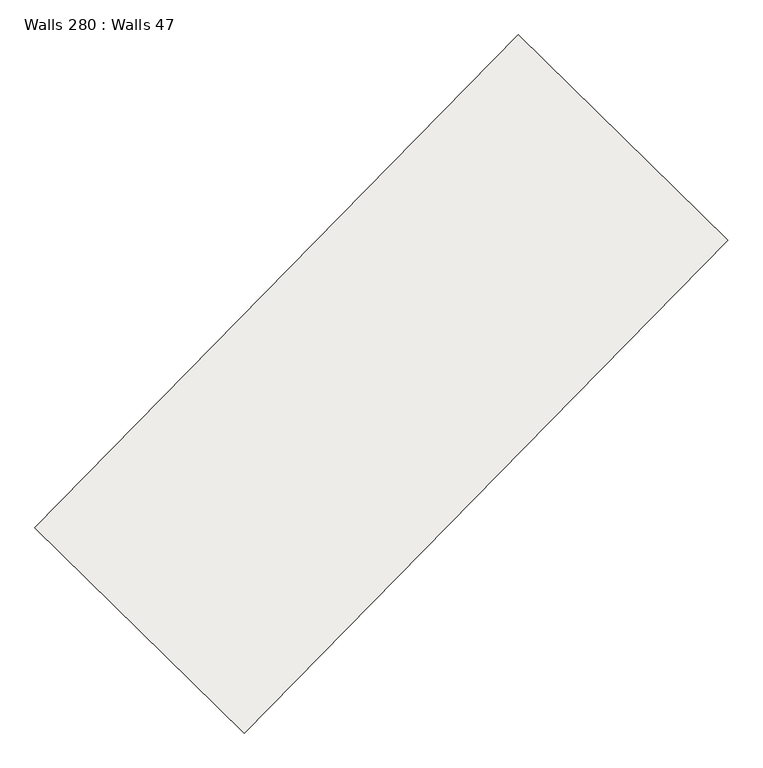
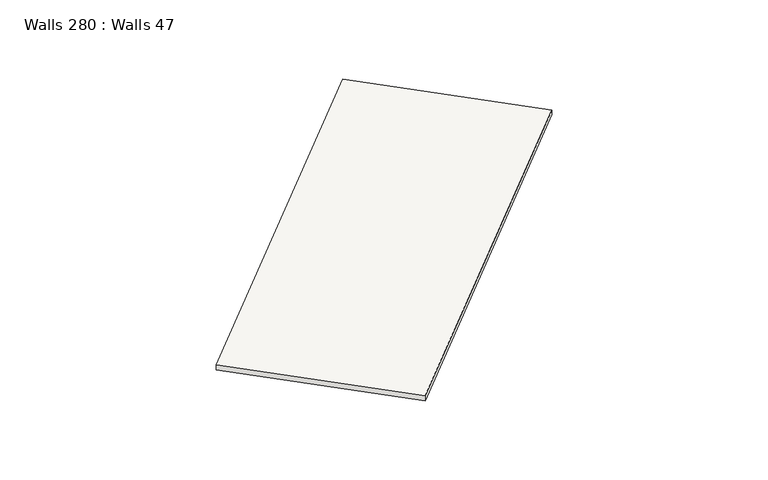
"""IFC4 building model written with IfcOpenShell, lengths in millimetres: slab geometry, Walls 280 : Walls 47."""

import ifcopenshell
import ifcopenshell.guid

model = None  # the IFC model being written
_history = None  # IfcOwnerHistory: only IFC2X3 demands one
_inside = {}  # id of a spatial element -> (the spatial element, [elements in it])
_under = {}  # id of a project, library or spatial element -> (it, [spatial elements below it])
_declared = {}  # id of a project -> (the project, [libraries it declares])
_typed = {}  # id of a type object -> (the type object, [elements of that type])
_made_of = {}  # id of a material, layer set ... -> (it, [elements and type objects made of it])


def new_model(schema):
    """Start an empty IFC model of exactly this schema.

    Asked for "IFC4X3", IfcOpenShell would pick the latest addendum, in which some entities
    have other attributes; the version numbers below select the first issue.
    IFC2X3 requires an IfcOwnerHistory on every rooted entity: one is made here for all.
    """
    global model, _history
    if schema == "IFC4X3":
        model = ifcopenshell.file(schema_version=(4, 3, 0, 0))
    else:
        model = ifcopenshell.file(schema=schema)
    _inside.clear()
    _under.clear()
    _declared.clear()
    _typed.clear()
    _made_of.clear()
    _history = None
    if model.schema == "IFC2X3":
        org = make("IfcOrganization", Name="unknown")
        user = make(
            "IfcPersonAndOrganization",
            ThePerson=make("IfcPerson", FamilyName="unknown"),
            TheOrganization=org,
        )
        app = make(
            "IfcApplication",
            ApplicationDeveloper=org,
            Version="unknown",
            ApplicationFullName="unknown",
            ApplicationIdentifier="unknown",
        )
        _history = make(
            "IfcOwnerHistory",
            OwningUser=user,
            OwningApplication=app,
            ChangeAction="ADDED",
            CreationDate=0,
        )
    return model


def make(cls, **values):
    """One entity of the class cls with the attributes given. An attribute that is None is left unset."""
    return model.create_entity(
        cls, **{name: value for name, value in values.items() if value is not None}
    )


def rooted(cls, **values):
    """An entity with a GlobalId (a new one), such as an element, a storey or a relation."""
    return make(cls, GlobalId=ifcopenshell.guid.new(), OwnerHistory=_history, **values)


def si_unit(unit_type, name, prefix=None):
    """IfcSIUnit, for example si_unit("LENGTHUNIT", "METRE", prefix="MILLI")."""
    return make("IfcSIUnit", UnitType=unit_type, Prefix=prefix, Name=name)


def assignment(units):
    """IfcUnitAssignment: the units of a project."""
    return None if units is None else make("IfcUnitAssignment", Units=units)


def point(xyz):
    """IfcCartesianPoint."""
    return None if xyz is None else make("IfcCartesianPoint", Coordinates=xyz)


def direction(xyz):
    """IfcDirection."""
    return None if xyz is None else make("IfcDirection", DirectionRatios=xyz)


def frame(location, z_axis=None, x_axis=None):
    """IfcAxis2Placement3D, a coordinate frame: its origin and axes. An axis left out is left unset."""
    return make(
        "IfcAxis2Placement3D",
        Location=point(location),
        Axis=direction(z_axis),
        RefDirection=direction(x_axis),
    )


def origin():
    """The frame at (0, 0, 0) with its axes left unset."""
    return frame((0.0, 0.0, 0.0))


def place(relative_to, where):
    """IfcLocalPlacement: puts the frame where relative to a parent placement (None: the world)."""
    return make(
        "IfcLocalPlacement", PlacementRelTo=relative_to, RelativePlacement=where
    )


def context(
    kind, dimensions, precision=None, world=None, true_north=None, identifier=None
):
    """IfcGeometricRepresentationContext, for example the 3D "Model" context."""
    return make(
        "IfcGeometricRepresentationContext",
        ContextIdentifier=identifier,
        ContextType=kind,
        CoordinateSpaceDimension=dimensions,
        Precision=precision,
        WorldCoordinateSystem=world,
        TrueNorth=true_north,
    )


def project(units=None, contexts=None):
    """IfcProject with its units and contexts."""
    return rooted(
        "IfcProject",
        Name="project",
        RepresentationContexts=contexts,
        UnitsInContext=assignment(units),
    )


def spatial(cls, under=None, at=None, **own):
    """A site, building, storey or space (cls), placed at a placement, below another one or the project."""
    s = rooted(cls, ObjectPlacement=at, **own)
    if under is not None:
        _under.setdefault(under.id(), (under, []))[1].append(s)
    return s


def polyline(points):
    """IfcPolyline through the points."""
    return make("IfcPolyline", Points=[point(p) for p in points])


def outline(outer, holes=None, kind="AREA"):
    """IfcArbitraryClosedProfileDef: a profile drawn as a closed curve; with holes, ...WithVoids."""
    if holes is None:
        return make("IfcArbitraryClosedProfileDef", ProfileType=kind, OuterCurve=outer)
    return make(
        "IfcArbitraryProfileDefWithVoids",
        ProfileType=kind,
        OuterCurve=outer,
        InnerCurves=holes,
    )


def extrude(swept, where, along, depth):
    """IfcExtrudedAreaSolid: the profile swept, set in the frame where, extruded along a direction by depth."""
    return make(
        "IfcExtrudedAreaSolid",
        SweptArea=swept,
        Position=where,
        ExtrudedDirection=direction(along),
        Depth=depth,
    )


def shape(context_of_items, identifier, shape_type, items):
    """IfcShapeRepresentation: the items that make up one representation, for example the "Body"."""
    return make(
        "IfcShapeRepresentation",
        ContextOfItems=context_of_items,
        RepresentationIdentifier=identifier,
        RepresentationType=shape_type,
        Items=items,
    )


def source(mapping_origin, context_of_items, identifier, shape_type, items):
    """IfcRepresentationMap: a shape defined once, which mapped items show again and again."""
    return make(
        "IfcRepresentationMap",
        MappingOrigin=mapping_origin,
        MappedRepresentation=shape(context_of_items, identifier, shape_type, items),
    )


def transform(
    local_origin,
    x_axis=None,
    y_axis=None,
    z_axis=None,
    scale=None,
    scale2=None,
    scale3=None,
    uniform=True,
):
    """IfcCartesianTransformationOperator3D, or its non-uniform kind. x_axis, y_axis, z_axis: its Axis1, 2, 3."""
    if uniform:
        return make(
            "IfcCartesianTransformationOperator3D",
            Axis1=direction(x_axis),
            Axis2=direction(y_axis),
            LocalOrigin=point(local_origin),
            Scale=scale,
            Axis3=direction(z_axis),
        )
    return make(
        "IfcCartesianTransformationOperator3DnonUniform",
        Axis1=direction(x_axis),
        Axis2=direction(y_axis),
        LocalOrigin=point(local_origin),
        Scale=scale,
        Axis3=direction(z_axis),
        Scale2=scale2,
        Scale3=scale3,
    )


def mapped(mapping_source, mapping_target):
    """IfcMappedItem: shows the shape of a source again, moved by a transform."""
    return make(
        "IfcMappedItem", MappingSource=mapping_source, MappingTarget=mapping_target
    )


def made_of(thing, what):
    """Note that an element or type object is made of a material, layer set ...; save() writes the relation."""
    if what is not None:
        _made_of.setdefault(what.id(), (what, []))[1].append(thing)
    return thing


def element(
    cls,
    number,
    at=None,
    inside=None,
    cuts=None,
    type_object=None,
    material=None,
    context=None,
    identifier="Body",
    shape_type=None,
    held_by="IfcProductDefinitionShape",
    body=None,
    shapes=None,
    **own,
):
    """One element of the class cls, such as IfcWall. Its Tag is "e" and its number.

    at: its placement. inside: the storey or other place that contains it. cuts: it is an
    opening in that element (IfcRelVoidsElement). A single representation is given by context,
    identifier, shape_type and body (its items); several are given by shapes. held_by: the class
    of the entity that holds the representations. save() writes the other relations.
    """
    e = rooted(cls, Tag="e%d" % number, ObjectPlacement=at, **own)
    if body is not None:
        shapes = [shape(context, identifier, shape_type, body)]
    if shapes is not None:
        e.Representation = make(held_by, Representations=shapes)
    if inside is not None:
        _inside.setdefault(inside.id(), (inside, []))[1].append(e)
    if cuts is not None:
        rooted(
            "IfcRelVoidsElement", RelatingBuildingElement=cuts, RelatedOpeningElement=e
        )
    if type_object is not None:
        _typed.setdefault(type_object.id(), (type_object, []))[1].append(e)
    return made_of(e, material)


def aggregate(whole, parts):
    """IfcRelAggregates: a whole, such as a stair, and the parts it consists of."""
    return rooted("IfcRelAggregates", RelatingObject=whole, RelatedObjects=parts)


def save(model, path):
    """Write the relations noted so far, then the file.

    IfcRelAggregates (storeys below a building ...), IfcRelContainedInSpatialStructure (elements
    in a storey), IfcRelDefinesByType, IfcRelAssociatesMaterial and IfcRelDeclares: one each for
    every whole, place, type object, material and project.
    """
    for whole, parts in _under.values():
        aggregate(whole, parts)
    for where, things in _inside.values():
        rooted(
            "IfcRelContainedInSpatialStructure",
            RelatedElements=things,
            RelatingStructure=where,
        )
    for kind, things in _typed.values():
        rooted("IfcRelDefinesByType", RelatedObjects=things, RelatingType=kind)
    for what, things in _made_of.values():
        rooted("IfcRelAssociatesMaterial", RelatedObjects=things, RelatingMaterial=what)
    for by, libraries in _declared.values():
        rooted("IfcRelDeclares", RelatingContext=by, RelatedDefinitions=libraries)
    model.write(path)


def walls_280_walls_47_0700fe22(model_context):
    return source(origin(), model_context, "Body", "SweptSolid", [
        extrude(outline(polyline([(-50.0, 0.0), (50.0, 0.0), (-40.0, -8699.9999995), (-140.0, -8699.9999995), (-50.0, 0.0)])), frame((-97447.9127981, -258646.2234556, 636630.0), z_axis=(-0.7137361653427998, 0.7004146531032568, 0.0), x_axis=(0.0, 0.0, 1.0)), (0.0, 0.0, 1.0), 3699.999995),
    ])


if __name__ == "__main__":
    model = new_model("IFC4")
    model_context = context("Model", 3, world=origin())
    ifc_project = project(units=[si_unit("LENGTHUNIT", "METRE", prefix="MILLI")], contexts=[model_context])
    site = spatial("IfcSite", under=ifc_project)
    building = spatial("IfcBuilding", under=site)
    placement = place(None, origin())
    walls_280_walls_47_shape = walls_280_walls_47_0700fe22(model_context)
    element("IfcSlab", 1, ObjectType="Walls 280 : Walls 47", at=placement, inside=building, context=model_context, shape_type="MappedRepresentation", body=[
        mapped(walls_280_walls_47_shape, transform((0.0, 0.0, 0.0), x_axis=(1.0, 0.0, 0.0), y_axis=(0.0, 1.0, 0.0), z_axis=(0.0, 0.0, 1.0))),
    ])
    save(model, "model.ifc")
